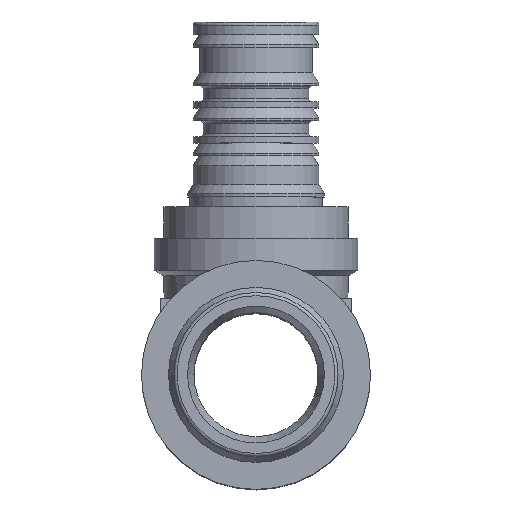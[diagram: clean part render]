
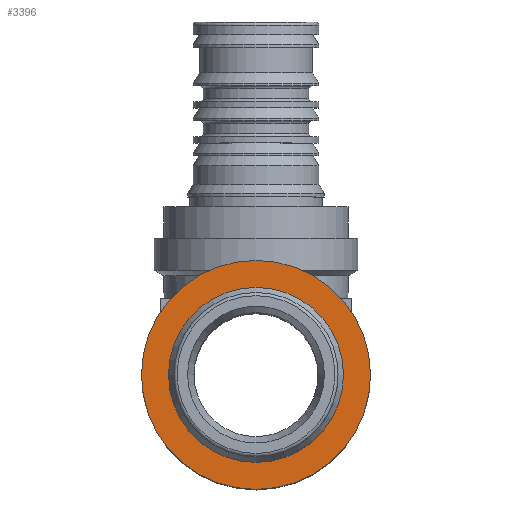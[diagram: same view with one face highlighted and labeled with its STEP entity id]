
A CAD part, top view. The second image highlights one B-rep face of the part: STEP entity #3396.
In plain terms, the highlighted planar face has unit normal (0, 0, 1).
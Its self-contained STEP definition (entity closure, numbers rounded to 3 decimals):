
#59=PLANE('',#3731);
#192=FACE_BOUND('',#485,.T.);
#281=FACE_OUTER_BOUND('',#484,.T.);
#484=EDGE_LOOP('',(#2642,#2643));
#485=EDGE_LOOP('',(#2644,#2645));
#1210=CIRCLE('',#3729,18.);
#1211=CIRCLE('',#3730,18.);
#1212=CIRCLE('',#3732,13.25);
#1213=CIRCLE('',#3733,13.25);
#1513=VERTEX_POINT('',#5669);
#1514=VERTEX_POINT('',#5670);
#1515=VERTEX_POINT('',#5675);
#1516=VERTEX_POINT('',#5676);
#1941=EDGE_CURVE('',#1513,#1514,#1210,.T.);
#1942=EDGE_CURVE('',#1514,#1513,#1211,.T.);
#1944=EDGE_CURVE('',#1515,#1516,#1212,.T.);
#1945=EDGE_CURVE('',#1516,#1515,#1213,.T.);
#2642=ORIENTED_EDGE('',*,*,#1941,.T.);
#2643=ORIENTED_EDGE('',*,*,#1942,.T.);
#2644=ORIENTED_EDGE('',*,*,#1944,.F.);
#2645=ORIENTED_EDGE('',*,*,#1945,.F.);
#3396=ADVANCED_FACE('',(#281,#192),#59,.T.);
#3729=AXIS2_PLACEMENT_3D('',#5671,#4438,#4439);
#3730=AXIS2_PLACEMENT_3D('',#5672,#4440,#4441);
#3731=AXIS2_PLACEMENT_3D('',#5674,#4443,#4444);
#3732=AXIS2_PLACEMENT_3D('',#5677,#4445,#4446);
#3733=AXIS2_PLACEMENT_3D('',#5678,#4447,#4448);
#4438=DIRECTION('center_axis',(0.,0.,1.));
#4439=DIRECTION('ref_axis',(1.,0.,0.));
#4440=DIRECTION('center_axis',(0.,0.,1.));
#4441=DIRECTION('ref_axis',(1.,0.,0.));
#4443=DIRECTION('center_axis',(0.,0.,1.));
#4444=DIRECTION('ref_axis',(1.,0.,0.));
#4445=DIRECTION('center_axis',(0.,0.,1.));
#4446=DIRECTION('ref_axis',(1.,0.,0.));
#4447=DIRECTION('center_axis',(0.,0.,1.));
#4448=DIRECTION('ref_axis',(1.,0.,0.));
#5669=CARTESIAN_POINT('',(0.,-18.,81.));
#5670=CARTESIAN_POINT('',(0.,18.,81.));
#5671=CARTESIAN_POINT('Origin',(0.,0.,81.));
#5672=CARTESIAN_POINT('Origin',(0.,0.,81.));
#5674=CARTESIAN_POINT('Origin',(0.,-13.25,81.));
#5675=CARTESIAN_POINT('',(0.,-13.25,81.));
#5676=CARTESIAN_POINT('',(0.,13.25,81.));
#5677=CARTESIAN_POINT('Origin',(0.,0.,81.));
#5678=CARTESIAN_POINT('Origin',(0.,0.,81.));
